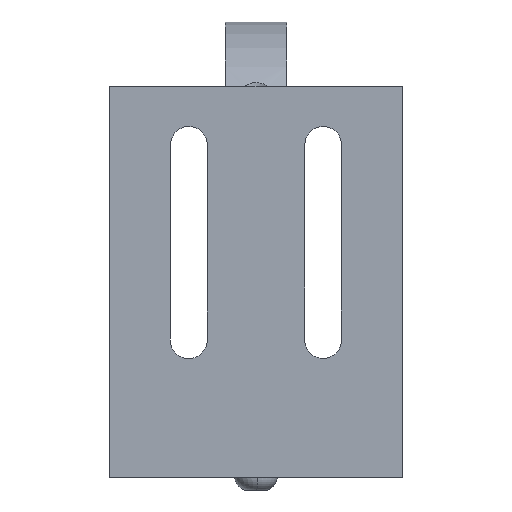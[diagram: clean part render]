
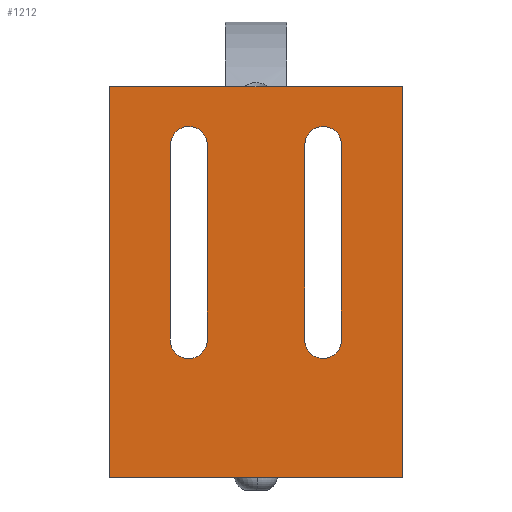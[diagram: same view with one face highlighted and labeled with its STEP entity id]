
A CAD part, front view. The second image highlights one B-rep face of the part: STEP entity #1212.
In plain terms, the highlighted planar face has unit normal (0, -1, 0).
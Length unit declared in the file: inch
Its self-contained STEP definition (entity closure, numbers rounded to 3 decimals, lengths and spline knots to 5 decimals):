
#417 = DIRECTION ( 'NONE',  ( -0.002, 0., -1. ) ) ;
#418 = VECTOR ( 'NONE', #417, 39.37008 ) ;
#419 = CARTESIAN_POINT ( 'NONE',  ( 28.24388, 2.10836, 3.4042 ) ) ;
#420 = DIRECTION ( 'NONE',  ( 0., 0., -1. ) ) ;
#421 = DIRECTION ( 'NONE',  ( 0., -1., 0. ) ) ;
#422 = CARTESIAN_POINT ( 'NONE',  ( 29.80585, 2.10836, 1.40378 ) ) ;
#423 = AXIS2_PLACEMENT_3D ( 'NONE', #422, #421, #420 ) ;
#424 = CIRCLE ( 'NONE', #423, 0.18804 ) ;
#425 = LINE ( 'NONE', #419, #418 ) ;
#426 = CARTESIAN_POINT ( 'NONE',  ( 28.23945, 2.10836, 1.40421 ) ) ;
#427 = CARTESIAN_POINT ( 'NONE',  ( 28.24388, 2.10836, 3.4042 ) ) ;
#428 = DIRECTION ( 'NONE',  ( 0., 0., -1. ) ) ;
#429 = DIRECTION ( 'NONE',  ( 0., -1., 0. ) ) ;
#430 = AXIS2_PLACEMENT_3D ( 'NONE', #437, #429, #428 ) ;
#431 = CIRCLE ( 'NONE', #430, 0.1875 ) ;
#437 = CARTESIAN_POINT ( 'NONE',  ( 29.80638, 2.10836, 3.40378 ) ) ;
#454 = CARTESIAN_POINT ( 'NONE',  ( 30.61838, 2.10836, 4. ) ) ;
#455 = DIRECTION ( 'NONE',  ( 0., 0., 1. ) ) ;
#456 = VECTOR ( 'NONE', #455, 39.37008 ) ;
#457 = CARTESIAN_POINT ( 'NONE',  ( 30.61838, 2.10836, 0.375 ) ) ;
#458 = LINE ( 'NONE', #457, #456 ) ;
#459 = DIRECTION ( 'NONE',  ( 0., 0., -1. ) ) ;
#460 = VECTOR ( 'NONE', #459, 39.37008 ) ;
#461 = CARTESIAN_POINT ( 'NONE',  ( 29.61888, 2.10836, 3.40378 ) ) ;
#462 = LINE ( 'NONE', #461, #460 ) ;
#495 = DIRECTION ( 'NONE',  ( 0., 0., -1. ) ) ;
#496 = VECTOR ( 'NONE', #495, 39.37008 ) ;
#497 = CARTESIAN_POINT ( 'NONE',  ( 27.61838, 2.10836, 0.375 ) ) ;
#498 = LINE ( 'NONE', #497, #496 ) ;
#505 = CARTESIAN_POINT ( 'NONE',  ( 29.61888, 2.10836, 1.42383 ) ) ;
#506 = CARTESIAN_POINT ( 'NONE',  ( 29.61888, 2.10836, 3.40378 ) ) ;
#514 = CARTESIAN_POINT ( 'NONE',  ( 28.61888, 2.10836, 3.40378 ) ) ;
#556 = DIRECTION ( 'NONE',  ( 0., 0., 1. ) ) ;
#557 = VECTOR ( 'NONE', #556, 39.37008 ) ;
#558 = CARTESIAN_POINT ( 'NONE',  ( 29.99388, 2.10836, 3.40378 ) ) ;
#559 = LINE ( 'NONE', #558, #557 ) ;
#560 = CARTESIAN_POINT ( 'NONE',  ( 29.99388, 2.10836, 3.40378 ) ) ;
#561 = DIRECTION ( 'NONE',  ( 0., 0., 1. ) ) ;
#562 = VECTOR ( 'NONE', #561, 39.37008 ) ;
#563 = CARTESIAN_POINT ( 'NONE',  ( 28.61888, 2.10836, 1.40379 ) ) ;
#564 = LINE ( 'NONE', #563, #562 ) ;
#565 = DIRECTION ( 'NONE',  ( 0., 0., -1. ) ) ;
#566 = DIRECTION ( 'NONE',  ( 0., -1., 0. ) ) ;
#567 = CARTESIAN_POINT ( 'NONE',  ( 28.43138, 2.10836, 3.40378 ) ) ;
#568 = AXIS2_PLACEMENT_3D ( 'NONE', #567, #566, #565 ) ;
#569 = CIRCLE ( 'NONE', #568, 0.1875 ) ;
#572 = LINE ( 'NONE', #634, #633 ) ;
#605 = CARTESIAN_POINT ( 'NONE',  ( 27.61838, 2.10836, 0. ) ) ;
#617 = CARTESIAN_POINT ( 'NONE',  ( 30.61838, 2.10836, 0. ) ) ;
#632 = DIRECTION ( 'NONE',  ( 1., 0., 0. ) ) ;
#633 = VECTOR ( 'NONE', #632, 39.37008 ) ;
#634 = CARTESIAN_POINT ( 'NONE',  ( 30.61838, 2.10836, 0. ) ) ;
#823 = ORIENTED_EDGE ( 'NONE', *, *, #856, .F. ) ;
#855 = ORIENTED_EDGE ( 'NONE', *, *, #940, .F. ) ;
#856 = EDGE_CURVE ( 'NONE', #939, #889, #431, .T. ) ;
#857 = VERTEX_POINT ( 'NONE', #427 ) ;
#858 = VERTEX_POINT ( 'NONE', #426 ) ;
#859 = ORIENTED_EDGE ( 'NONE', *, *, #864, .F. ) ;
#860 = ORIENTED_EDGE ( 'NONE', *, *, #5693, .F. ) ;
#861 = ORIENTED_EDGE ( 'NONE', *, *, #863, .F. ) ;
#862 = EDGE_LOOP ( 'NONE', ( #859, #936, #928, #5035, #5171 ) ) ;
#863 = EDGE_CURVE ( 'NONE', #890, #5717, #424, .T. ) ;
#864 = EDGE_CURVE ( 'NONE', #857, #858, #425, .T. ) ;
#876 = EDGE_CURVE ( 'NONE', #889, #890, #462, .T. ) ;
#879 = EDGE_CURVE ( 'NONE', #975, #881, #458, .T. ) ;
#881 = VERTEX_POINT ( 'NONE', #454 ) ;
#889 = VERTEX_POINT ( 'NONE', #506 ) ;
#890 = VERTEX_POINT ( 'NONE', #505 ) ;
#894 = EDGE_CURVE ( 'NONE', #1023, #982, #498, .T. ) ;
#928 = ORIENTED_EDGE ( 'NONE', *, *, #938, .F. ) ;
#933 = VERTEX_POINT ( 'NONE', #514 ) ;
#936 = ORIENTED_EDGE ( 'NONE', *, *, #937, .F. ) ;
#937 = EDGE_CURVE ( 'NONE', #933, #857, #569, .T. ) ;
#938 = EDGE_CURVE ( 'NONE', #5771, #933, #564, .T. ) ;
#939 = VERTEX_POINT ( 'NONE', #560 ) ;
#940 = EDGE_CURVE ( 'NONE', #5706, #939, #559, .T. ) ;
#963 = EDGE_CURVE ( 'NONE', #982, #975, #572, .T. ) ;
#975 = VERTEX_POINT ( 'NONE', #617 ) ;
#982 = VERTEX_POINT ( 'NONE', #605 ) ;
#1023 = VERTEX_POINT ( 'NONE', #2747 ) ;
#1211 = ORIENTED_EDGE ( 'NONE', *, *, #876, .F. ) ;
#1212 = ADVANCED_FACE ( 'NONE', ( #3027, #3026, #3025 ), #3024, .F. ) ;
#1214 = EDGE_LOOP ( 'NONE', ( #1211, #823, #855, #860, #861 ) ) ;
#2747 = CARTESIAN_POINT ( 'NONE',  ( 27.61838, 2.10836, 4. ) ) ;
#3020 = DIRECTION ( 'NONE',  ( 0., 1., 0. ) ) ;
#3021 = AXIS2_PLACEMENT_3D ( 'NONE', #3023, #3020, #3087 ) ;
#3023 = CARTESIAN_POINT ( 'NONE',  ( 30.61838, 2.10836, 0. ) ) ;
#3024 = PLANE ( 'NONE',  #3021 ) ;
#3025 = FACE_OUTER_BOUND ( 'NONE', #4891, .T. ) ;
#3026 = FACE_BOUND ( 'NONE', #862, .T. ) ;
#3027 = FACE_BOUND ( 'NONE', #1214, .T. ) ;
#3087 = DIRECTION ( 'NONE',  ( 0., 0., 1. ) ) ;
#4174 = LINE ( 'NONE', #4241, #4240 ) ;
#4214 = DIRECTION ( 'NONE',  ( 0., 0., -1. ) ) ;
#4215 = DIRECTION ( 'NONE',  ( 0., -1., 0. ) ) ;
#4216 = CARTESIAN_POINT ( 'NONE',  ( 28.42917, 2.10836, 1.40379 ) ) ;
#4217 = AXIS2_PLACEMENT_3D ( 'NONE', #4216, #4215, #4214 ) ;
#4218 = CIRCLE ( 'NONE', #4217, 0.18972 ) ;
#4239 = DIRECTION ( 'NONE',  ( 1., 0., 0. ) ) ;
#4240 = VECTOR ( 'NONE', #4239, 39.37008 ) ;
#4241 = CARTESIAN_POINT ( 'NONE',  ( 27.61838, 2.10836, 4. ) ) ;
#4255 = DIRECTION ( 'NONE',  ( 0., 0., -1. ) ) ;
#4256 = DIRECTION ( 'NONE',  ( 0., -1., 0. ) ) ;
#4257 = CARTESIAN_POINT ( 'NONE',  ( 29.80585, 2.10836, 1.40378 ) ) ;
#4258 = AXIS2_PLACEMENT_3D ( 'NONE', #4257, #4256, #4255 ) ;
#4259 = CIRCLE ( 'NONE', #4258, 0.18804 ) ;
#4294 = CARTESIAN_POINT ( 'NONE',  ( 29.80585, 2.10836, 1.21575 ) ) ;
#4305 = CARTESIAN_POINT ( 'NONE',  ( 29.99388, 2.10836, 1.40378 ) ) ;
#4425 = CARTESIAN_POINT ( 'NONE',  ( 28.61888, 2.10836, 1.40379 ) ) ;
#4430 = DIRECTION ( 'NONE',  ( 0., 0., -1. ) ) ;
#4431 = DIRECTION ( 'NONE',  ( 0., -1., 0. ) ) ;
#4432 = AXIS2_PLACEMENT_3D ( 'NONE', #4439, #4431, #4430 ) ;
#4433 = CIRCLE ( 'NONE', #4432, 0.18972 ) ;
#4439 = CARTESIAN_POINT ( 'NONE',  ( 28.42917, 2.10836, 1.40379 ) ) ;
#4446 = CARTESIAN_POINT ( 'NONE',  ( 28.42917, 2.10836, 1.21407 ) ) ;
#4850 = EDGE_CURVE ( 'NONE', #1023, #881, #4174, .T. ) ;
#4891 = EDGE_LOOP ( 'NONE', ( #5078, #4927, #5824, #5888 ) ) ;
#4927 = ORIENTED_EDGE ( 'NONE', *, *, #4850, .F. ) ;
#5035 = ORIENTED_EDGE ( 'NONE', *, *, #5769, .F. ) ;
#5078 = ORIENTED_EDGE ( 'NONE', *, *, #879, .T. ) ;
#5171 = ORIENTED_EDGE ( 'NONE', *, *, #5262, .F. ) ;
#5262 = EDGE_CURVE ( 'NONE', #858, #5759, #4218, .T. ) ;
#5693 = EDGE_CURVE ( 'NONE', #5717, #5706, #4259, .T. ) ;
#5706 = VERTEX_POINT ( 'NONE', #4305 ) ;
#5717 = VERTEX_POINT ( 'NONE', #4294 ) ;
#5759 = VERTEX_POINT ( 'NONE', #4446 ) ;
#5769 = EDGE_CURVE ( 'NONE', #5759, #5771, #4433, .T. ) ;
#5771 = VERTEX_POINT ( 'NONE', #4425 ) ;
#5824 = ORIENTED_EDGE ( 'NONE', *, *, #894, .T. ) ;
#5888 = ORIENTED_EDGE ( 'NONE', *, *, #963, .T. ) ;
